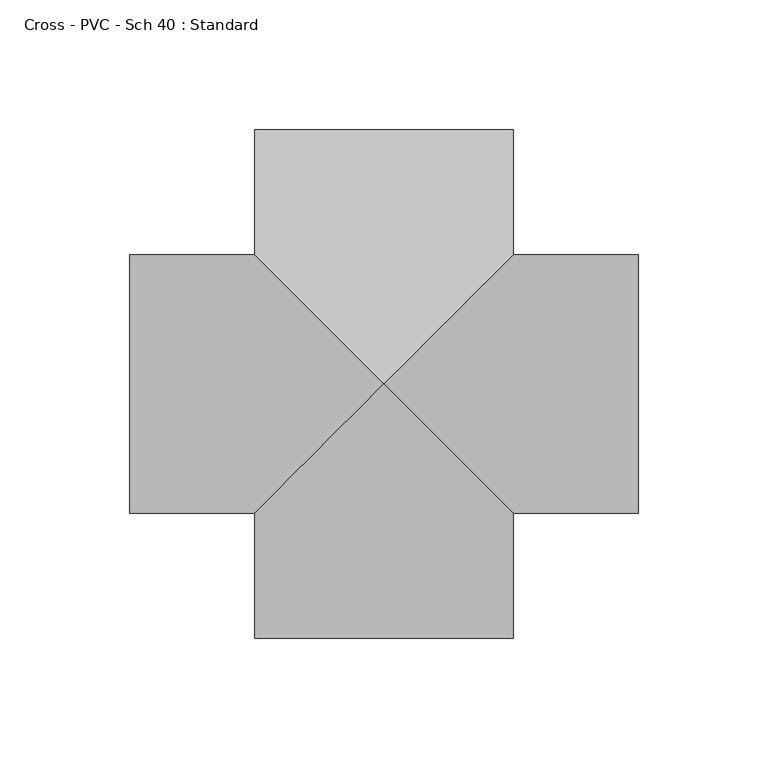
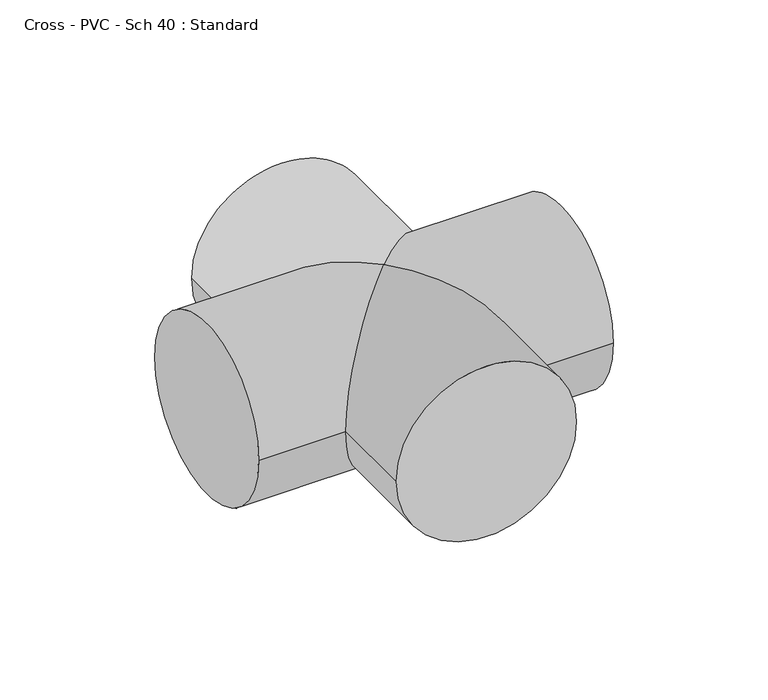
"""IFC4 building model written with IfcOpenShell, lengths in millimetres: pipe fitting geometry, Cross - PVC - Sch 40 : Standard."""

import ifcopenshell
import ifcopenshell.guid

model = None  # the IFC model being written
_history = None  # IfcOwnerHistory: only IFC2X3 demands one
_inside = {}  # id of a spatial element -> (the spatial element, [elements in it])
_under = {}  # id of a project, library or spatial element -> (it, [spatial elements below it])
_declared = {}  # id of a project -> (the project, [libraries it declares])
_typed = {}  # id of a type object -> (the type object, [elements of that type])
_made_of = {}  # id of a material, layer set ... -> (it, [elements and type objects made of it])


def new_model(schema):
    """Start an empty IFC model of exactly this schema.

    Asked for "IFC4X3", IfcOpenShell would pick the latest addendum, in which some entities
    have other attributes; the version numbers below select the first issue.
    IFC2X3 requires an IfcOwnerHistory on every rooted entity: one is made here for all.
    """
    global model, _history
    if schema == "IFC4X3":
        model = ifcopenshell.file(schema_version=(4, 3, 0, 0))
    else:
        model = ifcopenshell.file(schema=schema)
    _inside.clear()
    _under.clear()
    _declared.clear()
    _typed.clear()
    _made_of.clear()
    _history = None
    if model.schema == "IFC2X3":
        org = make("IfcOrganization", Name="unknown")
        user = make(
            "IfcPersonAndOrganization",
            ThePerson=make("IfcPerson", FamilyName="unknown"),
            TheOrganization=org,
        )
        app = make(
            "IfcApplication",
            ApplicationDeveloper=org,
            Version="unknown",
            ApplicationFullName="unknown",
            ApplicationIdentifier="unknown",
        )
        _history = make(
            "IfcOwnerHistory",
            OwningUser=user,
            OwningApplication=app,
            ChangeAction="ADDED",
            CreationDate=0,
        )
    return model


def make(cls, **values):
    """One entity of the class cls with the attributes given. An attribute that is None is left unset."""
    return model.create_entity(
        cls, **{name: value for name, value in values.items() if value is not None}
    )


def rooted(cls, **values):
    """An entity with a GlobalId (a new one), such as an element, a storey or a relation."""
    return make(cls, GlobalId=ifcopenshell.guid.new(), OwnerHistory=_history, **values)


def si_unit(unit_type, name, prefix=None):
    """IfcSIUnit, for example si_unit("LENGTHUNIT", "METRE", prefix="MILLI")."""
    return make("IfcSIUnit", UnitType=unit_type, Prefix=prefix, Name=name)


def assignment(units):
    """IfcUnitAssignment: the units of a project."""
    return None if units is None else make("IfcUnitAssignment", Units=units)


def point(xyz):
    """IfcCartesianPoint."""
    return None if xyz is None else make("IfcCartesianPoint", Coordinates=xyz)


def direction(xyz):
    """IfcDirection."""
    return None if xyz is None else make("IfcDirection", DirectionRatios=xyz)


def frame(location, z_axis=None, x_axis=None):
    """IfcAxis2Placement3D, a coordinate frame: its origin and axes. An axis left out is left unset."""
    return make(
        "IfcAxis2Placement3D",
        Location=point(location),
        Axis=direction(z_axis),
        RefDirection=direction(x_axis),
    )


def origin():
    """The frame at (0, 0, 0) with its axes left unset."""
    return frame((0.0, 0.0, 0.0))


def place(relative_to, where):
    """IfcLocalPlacement: puts the frame where relative to a parent placement (None: the world)."""
    return make(
        "IfcLocalPlacement", PlacementRelTo=relative_to, RelativePlacement=where
    )


def context(
    kind, dimensions, precision=None, world=None, true_north=None, identifier=None
):
    """IfcGeometricRepresentationContext, for example the 3D "Model" context."""
    return make(
        "IfcGeometricRepresentationContext",
        ContextIdentifier=identifier,
        ContextType=kind,
        CoordinateSpaceDimension=dimensions,
        Precision=precision,
        WorldCoordinateSystem=world,
        TrueNorth=true_north,
    )


def project(units=None, contexts=None):
    """IfcProject with its units and contexts."""
    return rooted(
        "IfcProject",
        Name="project",
        RepresentationContexts=contexts,
        UnitsInContext=assignment(units),
    )


def spatial(cls, under=None, at=None, **own):
    """A site, building, storey or space (cls), placed at a placement, below another one or the project."""
    s = rooted(cls, ObjectPlacement=at, **own)
    if under is not None:
        _under.setdefault(under.id(), (under, []))[1].append(s)
    return s


def circle_curve(where, radius):
    """IfcCircle in the frame where."""
    return make("IfcCircle", Position=where, Radius=radius)


def ellipse_curve(where, semi_axis1, semi_axis2):
    """IfcEllipse in the frame where."""
    return make(
        "IfcEllipse", Position=where, SemiAxis1=semi_axis1, SemiAxis2=semi_axis2
    )


def shape(context_of_items, identifier, shape_type, items):
    """IfcShapeRepresentation: the items that make up one representation, for example the "Body"."""
    return make(
        "IfcShapeRepresentation",
        ContextOfItems=context_of_items,
        RepresentationIdentifier=identifier,
        RepresentationType=shape_type,
        Items=items,
    )


def source(mapping_origin, context_of_items, identifier, shape_type, items):
    """IfcRepresentationMap: a shape defined once, which mapped items show again and again."""
    return make(
        "IfcRepresentationMap",
        MappingOrigin=mapping_origin,
        MappedRepresentation=shape(context_of_items, identifier, shape_type, items),
    )


def transform(
    local_origin,
    x_axis=None,
    y_axis=None,
    z_axis=None,
    scale=None,
    scale2=None,
    scale3=None,
    uniform=True,
):
    """IfcCartesianTransformationOperator3D, or its non-uniform kind. x_axis, y_axis, z_axis: its Axis1, 2, 3."""
    if uniform:
        return make(
            "IfcCartesianTransformationOperator3D",
            Axis1=direction(x_axis),
            Axis2=direction(y_axis),
            LocalOrigin=point(local_origin),
            Scale=scale,
            Axis3=direction(z_axis),
        )
    return make(
        "IfcCartesianTransformationOperator3DnonUniform",
        Axis1=direction(x_axis),
        Axis2=direction(y_axis),
        LocalOrigin=point(local_origin),
        Scale=scale,
        Axis3=direction(z_axis),
        Scale2=scale2,
        Scale3=scale3,
    )


def mapped(mapping_source, mapping_target):
    """IfcMappedItem: shows the shape of a source again, moved by a transform."""
    return make(
        "IfcMappedItem", MappingSource=mapping_source, MappingTarget=mapping_target
    )


def made_of(thing, what):
    """Note that an element or type object is made of a material, layer set ...; save() writes the relation."""
    if what is not None:
        _made_of.setdefault(what.id(), (what, []))[1].append(thing)
    return thing


def element(
    cls,
    number,
    at=None,
    inside=None,
    cuts=None,
    type_object=None,
    material=None,
    context=None,
    identifier="Body",
    shape_type=None,
    held_by="IfcProductDefinitionShape",
    body=None,
    shapes=None,
    **own,
):
    """One element of the class cls, such as IfcWall. Its Tag is "e" and its number.

    at: its placement. inside: the storey or other place that contains it. cuts: it is an
    opening in that element (IfcRelVoidsElement). A single representation is given by context,
    identifier, shape_type and body (its items); several are given by shapes. held_by: the class
    of the entity that holds the representations. save() writes the other relations.
    """
    e = rooted(cls, Tag="e%d" % number, ObjectPlacement=at, **own)
    if body is not None:
        shapes = [shape(context, identifier, shape_type, body)]
    if shapes is not None:
        e.Representation = make(held_by, Representations=shapes)
    if inside is not None:
        _inside.setdefault(inside.id(), (inside, []))[1].append(e)
    if cuts is not None:
        rooted(
            "IfcRelVoidsElement", RelatingBuildingElement=cuts, RelatedOpeningElement=e
        )
    if type_object is not None:
        _typed.setdefault(type_object.id(), (type_object, []))[1].append(e)
    return made_of(e, material)


def aggregate(whole, parts):
    """IfcRelAggregates: a whole, such as a stair, and the parts it consists of."""
    return rooted("IfcRelAggregates", RelatingObject=whole, RelatedObjects=parts)


def save(model, path):
    """Write the relations noted so far, then the file.

    IfcRelAggregates (storeys below a building ...), IfcRelContainedInSpatialStructure (elements
    in a storey), IfcRelDefinesByType, IfcRelAssociatesMaterial and IfcRelDeclares: one each for
    every whole, place, type object, material and project.
    """
    for whole, parts in _under.values():
        aggregate(whole, parts)
    for where, things in _inside.values():
        rooted(
            "IfcRelContainedInSpatialStructure",
            RelatedElements=things,
            RelatingStructure=where,
        )
    for kind, things in _typed.values():
        rooted("IfcRelDefinesByType", RelatedObjects=things, RelatingType=kind)
    for what, things in _made_of.values():
        rooted("IfcRelAssociatesMaterial", RelatedObjects=things, RelatingMaterial=what)
    for by, libraries in _declared.values():
        rooted("IfcRelDeclares", RelatingContext=by, RelatedDefinitions=libraries)
    model.write(path)


def plane_surface(at):
    """IfcPlane: the flat surface through the origin of the frame at, square to its z axis."""
    return make("IfcPlane", Position=at)


def cylinder_surface(at, radius):
    """IfcCylindricalSurface: all points at the distance radius from the z axis of the frame at."""
    return make("IfcCylindricalSurface", Position=at, Radius=radius)


def advanced_brep(points, edges, surfaces, faces):
    """IfcAdvancedBrep: a solid bounded by faces that lie on surfaces and meet in shared edges.

    An edge is (start, end): straight between two places in points (the first is 0);
    or (start, end, curve); or (start, end, curve, False) where it runs against its curve.
    A face is (place in surfaces, loops), or (place, loops, False) where it looks against
    its surface's normal. A loop lists edges by number (the first is 1), with a minus sign
    where the edge is run from its end to its start. The first loop is the outer one.
    """
    corners = [point(p) for p in points]
    vertices = [make("IfcVertexPoint", VertexGeometry=c) for c in corners]
    made = []
    for start, end, *more in edges:
        made.append(
            make(
                "IfcEdgeCurve",
                EdgeStart=vertices[start],
                EdgeEnd=vertices[end],
                EdgeGeometry=more[0] if more else make("IfcPolyline", Points=[corners[start], corners[end]]),
                SameSense=more[1] if len(more) > 1 else True,
            )
        )
    hull = []
    for where, loops, *sense in faces:
        bounds = []
        for j, loop in enumerate(loops):
            ring = [make("IfcOrientedEdge", EdgeElement=made[abs(k) - 1], Orientation=k > 0) for k in loop]
            bounds.append(
                make(
                    "IfcFaceOuterBound" if j == 0 else "IfcFaceBound",
                    Bound=make("IfcEdgeLoop", EdgeList=ring),
                    Orientation=True,
                )
            )
        hull.append(make("IfcAdvancedFace", Bounds=bounds, FaceSurface=surfaces[where], SameSense=sense[0] if sense else True))
    return make("IfcAdvancedBrep", Outer=make("IfcClosedShell", CfsFaces=hull))


def cross_pvc_sch_40_standard_99b2fb3f(model_context):
    return source(origin(), model_context, "Body", "AdvancedBrep", [
        advanced_brep(
        [(-49.799875, -97.7939688, 0.0), (49.799875, -97.7939688, 0.0), (49.799875, -49.799875, 0.0), (0.0, 0.0, 49.799875), (-49.799875, -49.799875, 0.0), (0.0, 0.0, -49.799875), (49.799875, 97.7939687, 0.0), (-49.799875, 97.7939687, 0.0), (-49.799875, 49.799875, 0.0), (49.799875, 49.799875, 0.0), (-97.7939687, -49.799875, 0.0), (-97.7939687, 49.799875, 0.0), (97.7939688, -49.799875, 0.0), (97.7939688, 49.799875, 0.0)],
        [
            (0, 1, circle_curve(frame((0.0, -97.7939688, 0.0), z_axis=(0.0, -1.0, 0.0), x_axis=(1.0, 0.0, 0.0)), 49.799875)),
            (1, 0, circle_curve(frame((0.0, -97.7939688, 0.0), z_axis=(0.0, -1.0, 0.0), x_axis=(1.0, 0.0, 0.0)), 49.799875)),
            (1, 2),
            (2, 3, ellipse_curve(frame((0.0, 0.0, 0.0), z_axis=(-0.707106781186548, -0.7071067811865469, 0.0), x_axis=(-0.7071067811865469, 0.7071067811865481, 0.0)), 70.4276586, 49.799875)),
            (3, 4, ellipse_curve(frame((0.0, 0.0, 0.0), z_axis=(0.7071067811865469, -0.7071067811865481, 0.0), x_axis=(0.707106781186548, 0.7071067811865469, 0.0)), 70.4276586, 49.799875)),
            (4, 0),
            (4, 5, ellipse_curve(frame((0.0, 0.0, 0.0), z_axis=(0.7071067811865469, -0.7071067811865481, 0.0), x_axis=(0.707106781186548, 0.7071067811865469, 0.0)), 70.4276586, 49.799875)),
            (5, 2, ellipse_curve(frame((0.0, 0.0, 0.0), z_axis=(-0.707106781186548, -0.7071067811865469, 0.0), x_axis=(-0.7071067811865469, 0.7071067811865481, 0.0)), 70.4276586, 49.799875)),
            (6, 7, circle_curve(frame((0.0, 97.7939687, 0.0), z_axis=(0.0, 1.0, 0.0), x_axis=(-1.0, 0.0, 0.0)), 49.799875)),
            (7, 6, circle_curve(frame((0.0, 97.7939687, 0.0), z_axis=(0.0, 1.0, 0.0), x_axis=(-1.0, 0.0, 0.0)), 49.799875)),
            (7, 8),
            (8, 3, ellipse_curve(frame((0.0, 0.0, 0.0), z_axis=(0.7071067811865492, 0.7071067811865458, 0.0), x_axis=(0.7071067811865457, -0.7071067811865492, 0.0)), 70.4276586, 49.799875)),
            (3, 9, ellipse_curve(frame((0.0, 0.0, 0.0), z_axis=(-0.7071067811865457, 0.7071067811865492, 0.0), x_axis=(-0.7071067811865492, -0.7071067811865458, 0.0)), 70.4276586, 49.799875)),
            (9, 6),
            (9, 5, ellipse_curve(frame((0.0, 0.0, 0.0), z_axis=(-0.7071067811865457, 0.7071067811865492, 0.0), x_axis=(-0.7071067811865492, -0.7071067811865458, 0.0)), 70.4276586, 49.799875)),
            (5, 8, ellipse_curve(frame((0.0, 0.0, 0.0), z_axis=(0.7071067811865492, 0.7071067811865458, 0.0), x_axis=(0.7071067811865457, -0.7071067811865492, 0.0)), 70.4276586, 49.799875)),
            (10, 11, circle_curve(frame((-97.7939687, 0.0, 0.0), z_axis=(-1.0, 0.0, 0.0), x_axis=(0.0, 1.0, 0.0)), 49.799875)),
            (11, 10, circle_curve(frame((-97.7939687, 0.0, 0.0), z_axis=(-1.0, 0.0, 0.0), x_axis=(0.0, 1.0, 0.0)), 49.799875)),
            (12, 13, circle_curve(frame((97.7939688, 0.0, 0.0), z_axis=(1.0, 0.0, 0.0), x_axis=(0.0, 1.0, 0.0)), 49.799875)),
            (13, 12, circle_curve(frame((97.7939688, 0.0, 0.0), z_axis=(1.0, 0.0, 0.0), x_axis=(0.0, 1.0, 0.0)), 49.799875)),
            (10, 4),
            (8, 11),
            (13, 9),
            (2, 12),
        ],
        [
            plane_surface(frame((0.0, -97.7939688, 0.0), z_axis=(0.0, -1.0, 0.0), x_axis=(0.0, 0.0, 1.0))),
            cylinder_surface(frame((0.0, 0.0, 0.0), z_axis=(0.0, 1.0, 0.0), x_axis=(1.0, 0.0, 0.0)), 49.799875),
            plane_surface(frame((0.0, 97.7939687, 0.0), z_axis=(0.0, 1.0, 0.0), x_axis=(0.0, 0.0, 1.0))),
            cylinder_surface(frame((0.0, 0.0, 0.0), z_axis=(0.0, -1.0, 0.0), x_axis=(-1.0, 0.0, 0.0)), 49.799875),
            plane_surface(frame((-97.7939687, 0.0, 0.0), z_axis=(-1.0, 0.0, 0.0), x_axis=(0.0, 0.0, 1.0))),
            plane_surface(frame((97.7939688, 0.0, 0.0), z_axis=(1.0, 0.0, 0.0), x_axis=(0.0, 0.0, 1.0))),
            cylinder_surface(frame((-97.7939687, 0.0, 0.0), z_axis=(-1.0, 0.0, 0.0), x_axis=(0.0, 1.0, 0.0)), 49.799875),
        ],
        [
            (0, [[1, 2]]),
            (1, [[-2, 3, 4, 5, 6]]),
            (1, [[-1, -6, 7, 8, -3]]),
            (2, [[9, 10]]),
            (3, [[-10, 11, 12, 13, 14]]),
            (3, [[-9, -14, 15, 16, -11]]),
            (4, [[17, 18]]),
            (5, [[19, 20]]),
            (6, [[-17, 21, -5, -12, 22]]),
            (6, [[-20, 23, -13, -4, 24]]),
            (6, [[-18, -22, -16, -7, -21]]),
            (6, [[-19, -24, -8, -15, -23]]),
        ],
    ),
    ])


if __name__ == "__main__":
    model = new_model("IFC4")
    model_context = context("Model", 3, world=origin())
    ifc_project = project(units=[si_unit("LENGTHUNIT", "METRE", prefix="MILLI")], contexts=[model_context])
    site = spatial("IfcSite", under=ifc_project)
    building = spatial("IfcBuilding", under=site)
    placement = place(None, origin())
    cross_pvc_sch_40_standard_shape = cross_pvc_sch_40_standard_99b2fb3f(model_context)
    element("IfcPipeFitting", 1, ObjectType="Cross - PVC - Sch 40 : Standard", at=placement, inside=building, context=model_context, shape_type="MappedRepresentation", body=[
        mapped(cross_pvc_sch_40_standard_shape, transform((0.0, 0.0, 0.0), x_axis=(1.0, 0.0, 0.0), y_axis=(0.0, 1.0, 0.0), z_axis=(0.0, 0.0, 1.0))),
    ])
    save(model, "model.ifc")
